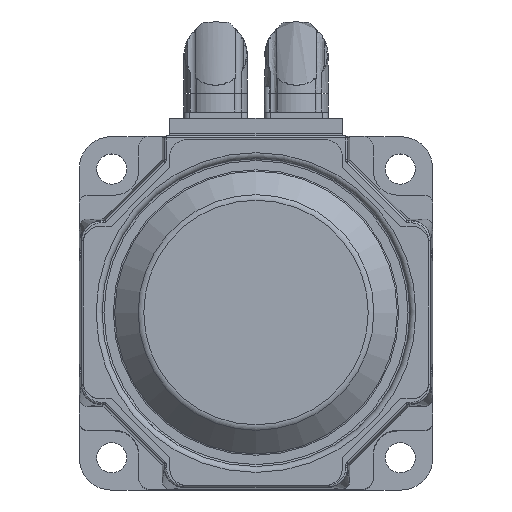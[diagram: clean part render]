
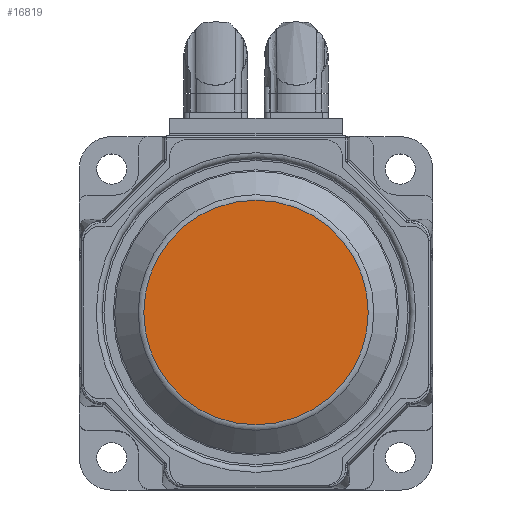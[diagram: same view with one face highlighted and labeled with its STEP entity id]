
A CAD part, top view. The second image highlights one B-rep face of the part: STEP entity #16819.
In plain terms, the highlighted planar face has unit normal (0, 0, 1).
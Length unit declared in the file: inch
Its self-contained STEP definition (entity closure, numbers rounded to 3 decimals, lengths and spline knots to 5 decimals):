
#16799=CARTESIAN_POINT('',(0.0,1.78622,1.69));
#16800=VERTEX_POINT('',#16799);
#16801=CARTESIAN_POINT('',(0.0,0.0,1.69));
#16802=DIRECTION('',(0.0,0.0,-1.0));
#16803=DIRECTION('',(0.0,1.0,0.0));
#16804=AXIS2_PLACEMENT_3D('',#16801,#16802,#16803);
#16805=CIRCLE('',#16804,1.78622);
#16806=EDGE_CURVE('',#16800,#16800,#16805,.T.);
#16811=CARTESIAN_POINT('',(0.0,0.89311,1.69));
#16812=DIRECTION('',(0.0,0.0,1.0));
#16813=DIRECTION('',(1.0,0.0,0.0));
#16814=AXIS2_PLACEMENT_3D('',#16811,#16812,#16813);
#16815=PLANE('',#16814);
#16816=ORIENTED_EDGE('',*,*,#16806,.F.);
#16817=EDGE_LOOP('',(#16816));
#16818=FACE_OUTER_BOUND('',#16817,.T.);
#16819=ADVANCED_FACE('',(#16818),#16815,.T.);
